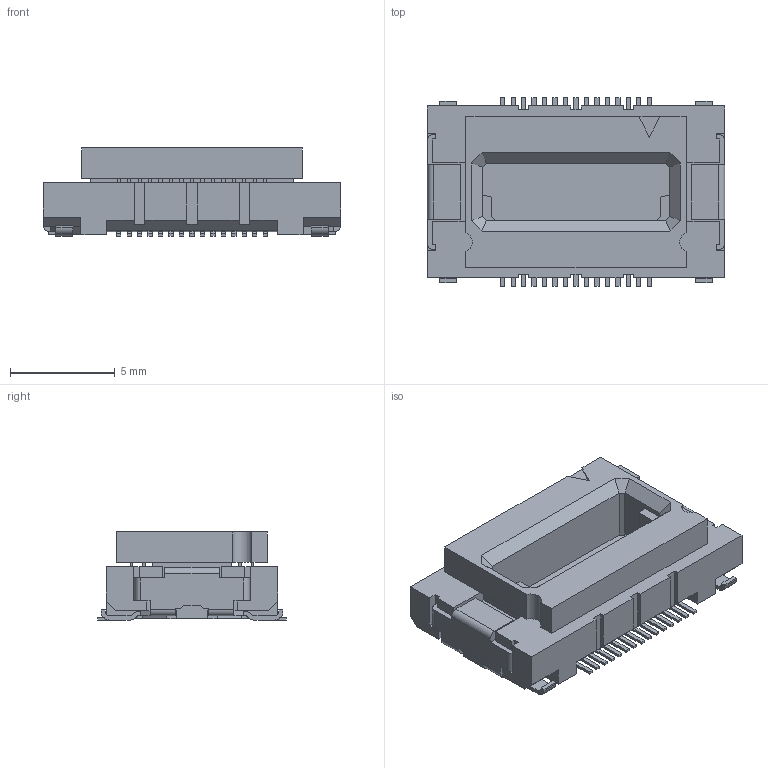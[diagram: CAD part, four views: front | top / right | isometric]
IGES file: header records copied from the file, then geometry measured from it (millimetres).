
Start section: Elysium IGES Interface
Global section: file name: 130HG:\その他\DY関連\CAD\（作り直し）Webリニューアル対応\DY00-XXXS     _(STEP／IGES形式_回覧No.56-36-0002)\①IGES\P3A287_DY00-030S.igs; native system: Creo Elements/Direct Modeling 19.0F  14-Feb-2017; preprocessor: Creo Element/Direct IGES_3D V2.2; author: Unknown; organization: Unknown; date: 20170810.141558; units: millimetre
Bounding box: 14.2 x 9 x 4.2 mm (x, y, z)
Volume: 300.6 mm3; surface area: 643.4 mm2
Topology: 1 solids, 1 shells, 1103 faces, 3105 edges, 2066 vertices
Faces by surface type: bspline 1103
